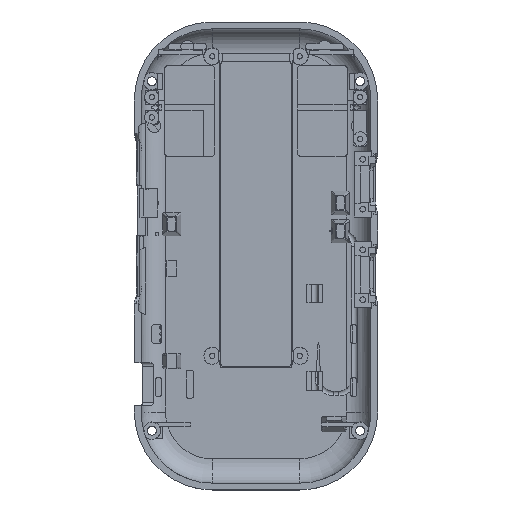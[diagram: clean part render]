
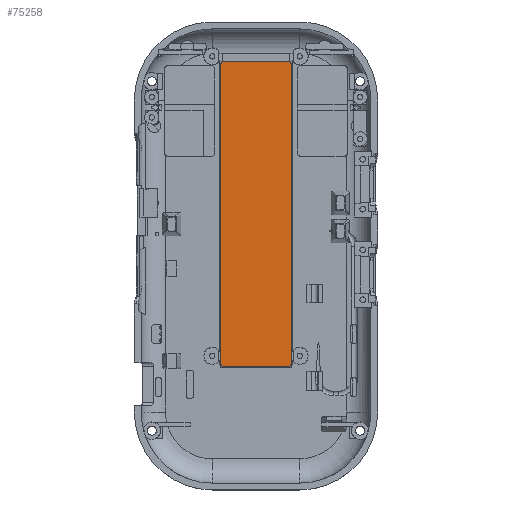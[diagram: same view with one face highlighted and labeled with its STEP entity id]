
A CAD part, top view. The second image highlights one B-rep face of the part: STEP entity #75258.
In plain terms, the highlighted planar face has unit normal (0, 0, 1).
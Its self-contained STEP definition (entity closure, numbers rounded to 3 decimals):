
#6633 = CYLINDRICAL_SURFACE('',#6634,1.);
#6634 = AXIS2_PLACEMENT_3D('',#6635,#6636,#6637);
#6635 = CARTESIAN_POINT('',(-10.25,-34.5,-22.1));
#6636 = DIRECTION('',(-0.,-0.,-1.));
#6637 = DIRECTION('',(1.,0.,0.));
#6848 = CYLINDRICAL_SURFACE('',#6849,1.);
#6849 = AXIS2_PLACEMENT_3D('',#6850,#6851,#6852);
#6850 = CARTESIAN_POINT('',(10.25,-34.5,-22.1));
#6851 = DIRECTION('',(-0.,-0.,-1.));
#6852 = DIRECTION('',(1.,0.,0.));
#18561 = PLANE('',#18562);
#18562 = AXIS2_PLACEMENT_3D('',#18563,#18564,#18565);
#18563 = CARTESIAN_POINT('',(-11.25,-34.5,-22.1));
#18564 = DIRECTION('',(-1.,0.,0.));
#18565 = DIRECTION('',(0.,1.,0.));
#18593 = CYLINDRICAL_SURFACE('',#18594,1.);
#18594 = AXIS2_PLACEMENT_3D('',#18595,#18596,#18597);
#18595 = CARTESIAN_POINT('',(-10.25,61.5,-22.1));
#18596 = DIRECTION('',(-0.,-0.,-1.));
#18597 = DIRECTION('',(1.,0.,0.));
#43942 = CYLINDRICAL_SURFACE('',#43943,1.);
#43943 = AXIS2_PLACEMENT_3D('',#43944,#43945,#43946);
#43944 = CARTESIAN_POINT('',(10.25,61.5,-22.1));
#43945 = DIRECTION('',(-0.,-0.,-1.));
#43946 = DIRECTION('',(1.,0.,0.));
#43969 = PLANE('',#43970);
#43970 = AXIS2_PLACEMENT_3D('',#43971,#43972,#43973);
#43971 = CARTESIAN_POINT('',(11.25,-34.5,-22.1));
#43972 = DIRECTION('',(-1.,0.,0.));
#43973 = DIRECTION('',(0.,1.,0.));
#44176 = VERTEX_POINT('',#44177);
#44177 = CARTESIAN_POINT('',(10.25,-35.5,-22.1));
#44193 = PLANE('',#44194);
#44194 = AXIS2_PLACEMENT_3D('',#44195,#44196,#44197);
#44195 = CARTESIAN_POINT('',(-10.25,-35.5,-22.1));
#44196 = DIRECTION('',(0.,1.,0.));
#44197 = DIRECTION('',(1.,0.,0.));
#44205 = EDGE_CURVE('',#44176,#44206,#44208,.T.);
#44206 = VERTEX_POINT('',#44207);
#44207 = CARTESIAN_POINT('',(11.25,-34.5,-22.1));
#44208 = SURFACE_CURVE('',#44209,(#44214,#44221),.PCURVE_S1.);
#44209 = CIRCLE('',#44210,1.);
#44210 = AXIS2_PLACEMENT_3D('',#44211,#44212,#44213);
#44211 = CARTESIAN_POINT('',(10.25,-34.5,-22.1));
#44212 = DIRECTION('',(0.,0.,1.));
#44213 = DIRECTION('',(1.,0.,-0.));
#44214 = PCURVE('',#6848,#44215);
#44215 = DEFINITIONAL_REPRESENTATION('',(#44216),#44220);
#44216 = LINE('',#44217,#44218);
#44217 = CARTESIAN_POINT('',(6.283,0.));
#44218 = VECTOR('',#44219,1.);
#44219 = DIRECTION('',(-1.,0.));
#44220 = ( GEOMETRIC_REPRESENTATION_CONTEXT(2) 
PARAMETRIC_REPRESENTATION_CONTEXT() REPRESENTATION_CONTEXT('2D SPACE',''
  ) );
#44221 = PCURVE('',#44222,#44227);
#44222 = PLANE('',#44223);
#44223 = AXIS2_PLACEMENT_3D('',#44224,#44225,#44226);
#44224 = CARTESIAN_POINT('',(0.,13.5,-22.1));
#44225 = DIRECTION('',(0.,0.,1.));
#44226 = DIRECTION('',(1.,0.,-0.));
#44227 = DEFINITIONAL_REPRESENTATION('',(#44228),#44232);
#44228 = CIRCLE('',#44229,1.);
#44229 = AXIS2_PLACEMENT_2D('',#44230,#44231);
#44230 = CARTESIAN_POINT('',(10.25,-48.));
#44231 = DIRECTION('',(1.,0.));
#44232 = ( GEOMETRIC_REPRESENTATION_CONTEXT(2) 
PARAMETRIC_REPRESENTATION_CONTEXT() REPRESENTATION_CONTEXT('2D SPACE',''
  ) );
#44345 = VERTEX_POINT('',#44346);
#44346 = CARTESIAN_POINT('',(-11.25,-34.5,-22.1));
#44367 = EDGE_CURVE('',#44345,#44368,#44370,.T.);
#44368 = VERTEX_POINT('',#44369);
#44369 = CARTESIAN_POINT('',(-10.25,-35.5,-22.1));
#44370 = SURFACE_CURVE('',#44371,(#44376,#44383),.PCURVE_S1.);
#44371 = CIRCLE('',#44372,1.);
#44372 = AXIS2_PLACEMENT_3D('',#44373,#44374,#44375);
#44373 = CARTESIAN_POINT('',(-10.25,-34.5,-22.1));
#44374 = DIRECTION('',(0.,0.,1.));
#44375 = DIRECTION('',(1.,0.,-0.));
#44376 = PCURVE('',#6633,#44377);
#44377 = DEFINITIONAL_REPRESENTATION('',(#44378),#44382);
#44378 = LINE('',#44379,#44380);
#44379 = CARTESIAN_POINT('',(6.283,0.));
#44380 = VECTOR('',#44381,1.);
#44381 = DIRECTION('',(-1.,0.));
#44382 = ( GEOMETRIC_REPRESENTATION_CONTEXT(2) 
PARAMETRIC_REPRESENTATION_CONTEXT() REPRESENTATION_CONTEXT('2D SPACE',''
  ) );
#44383 = PCURVE('',#44222,#44384);
#44384 = DEFINITIONAL_REPRESENTATION('',(#44385),#44389);
#44385 = CIRCLE('',#44386,1.);
#44386 = AXIS2_PLACEMENT_2D('',#44387,#44388);
#44387 = CARTESIAN_POINT('',(-10.25,-48.));
#44388 = DIRECTION('',(1.,0.));
#44389 = ( GEOMETRIC_REPRESENTATION_CONTEXT(2) 
PARAMETRIC_REPRESENTATION_CONTEXT() REPRESENTATION_CONTEXT('2D SPACE',''
  ) );
#46128 = PLANE('',#46129);
#46129 = AXIS2_PLACEMENT_3D('',#46130,#46131,#46132);
#46130 = CARTESIAN_POINT('',(-10.25,62.5,-22.1));
#46131 = DIRECTION('',(0.,1.,0.));
#46132 = DIRECTION('',(1.,0.,0.));
#54968 = VERTEX_POINT('',#54969);
#54969 = CARTESIAN_POINT('',(-10.25,62.5,-22.1));
#54990 = EDGE_CURVE('',#54968,#54991,#54993,.T.);
#54991 = VERTEX_POINT('',#54992);
#54992 = CARTESIAN_POINT('',(-11.25,61.5,-22.1));
#54993 = SURFACE_CURVE('',#54994,(#54999,#55006),.PCURVE_S1.);
#54994 = CIRCLE('',#54995,1.);
#54995 = AXIS2_PLACEMENT_3D('',#54996,#54997,#54998);
#54996 = CARTESIAN_POINT('',(-10.25,61.5,-22.1));
#54997 = DIRECTION('',(0.,0.,1.));
#54998 = DIRECTION('',(1.,0.,-0.));
#54999 = PCURVE('',#18593,#55000);
#55000 = DEFINITIONAL_REPRESENTATION('',(#55001),#55005);
#55001 = LINE('',#55002,#55003);
#55002 = CARTESIAN_POINT('',(6.283,0.));
#55003 = VECTOR('',#55004,1.);
#55004 = DIRECTION('',(-1.,0.));
#55005 = ( GEOMETRIC_REPRESENTATION_CONTEXT(2) 
PARAMETRIC_REPRESENTATION_CONTEXT() REPRESENTATION_CONTEXT('2D SPACE',''
  ) );
#55006 = PCURVE('',#44222,#55007);
#55007 = DEFINITIONAL_REPRESENTATION('',(#55008),#55012);
#55008 = CIRCLE('',#55009,1.);
#55009 = AXIS2_PLACEMENT_2D('',#55010,#55011);
#55010 = CARTESIAN_POINT('',(-10.25,48.));
#55011 = DIRECTION('',(1.,0.));
#55012 = ( GEOMETRIC_REPRESENTATION_CONTEXT(2) 
PARAMETRIC_REPRESENTATION_CONTEXT() REPRESENTATION_CONTEXT('2D SPACE',''
  ) );
#55040 = EDGE_CURVE('',#44345,#54991,#55041,.T.);
#55041 = SURFACE_CURVE('',#55042,(#55046,#55053),.PCURVE_S1.);
#55042 = LINE('',#55043,#55044);
#55043 = CARTESIAN_POINT('',(-11.25,13.5,-22.1));
#55044 = VECTOR('',#55045,1.);
#55045 = DIRECTION('',(0.,1.,0.));
#55046 = PCURVE('',#18561,#55047);
#55047 = DEFINITIONAL_REPRESENTATION('',(#55048),#55052);
#55048 = LINE('',#55049,#55050);
#55049 = CARTESIAN_POINT('',(48.,0.));
#55050 = VECTOR('',#55051,1.);
#55051 = DIRECTION('',(1.,0.));
#55052 = ( GEOMETRIC_REPRESENTATION_CONTEXT(2) 
PARAMETRIC_REPRESENTATION_CONTEXT() REPRESENTATION_CONTEXT('2D SPACE',''
  ) );
#55053 = PCURVE('',#44222,#55054);
#55054 = DEFINITIONAL_REPRESENTATION('',(#55055),#55059);
#55055 = LINE('',#55056,#55057);
#55056 = CARTESIAN_POINT('',(-11.25,0.));
#55057 = VECTOR('',#55058,1.);
#55058 = DIRECTION('',(0.,1.));
#55059 = ( GEOMETRIC_REPRESENTATION_CONTEXT(2) 
PARAMETRIC_REPRESENTATION_CONTEXT() REPRESENTATION_CONTEXT('2D SPACE',''
  ) );
#75107 = EDGE_CURVE('',#44206,#75108,#75110,.T.);
#75108 = VERTEX_POINT('',#75109);
#75109 = CARTESIAN_POINT('',(11.25,61.5,-22.1));
#75110 = SURFACE_CURVE('',#75111,(#75115,#75122),.PCURVE_S1.);
#75111 = LINE('',#75112,#75113);
#75112 = CARTESIAN_POINT('',(11.25,13.5,-22.1));
#75113 = VECTOR('',#75114,1.);
#75114 = DIRECTION('',(0.,1.,0.));
#75115 = PCURVE('',#43969,#75116);
#75116 = DEFINITIONAL_REPRESENTATION('',(#75117),#75121);
#75117 = LINE('',#75118,#75119);
#75118 = CARTESIAN_POINT('',(48.,0.));
#75119 = VECTOR('',#75120,1.);
#75120 = DIRECTION('',(1.,0.));
#75121 = ( GEOMETRIC_REPRESENTATION_CONTEXT(2) 
PARAMETRIC_REPRESENTATION_CONTEXT() REPRESENTATION_CONTEXT('2D SPACE',''
  ) );
#75122 = PCURVE('',#44222,#75123);
#75123 = DEFINITIONAL_REPRESENTATION('',(#75124),#75128);
#75124 = LINE('',#75125,#75126);
#75125 = CARTESIAN_POINT('',(11.25,0.));
#75126 = VECTOR('',#75127,1.);
#75127 = DIRECTION('',(0.,1.));
#75128 = ( GEOMETRIC_REPRESENTATION_CONTEXT(2) 
PARAMETRIC_REPRESENTATION_CONTEXT() REPRESENTATION_CONTEXT('2D SPACE',''
  ) );
#75157 = EDGE_CURVE('',#75108,#75158,#75160,.T.);
#75158 = VERTEX_POINT('',#75159);
#75159 = CARTESIAN_POINT('',(10.25,62.5,-22.1));
#75160 = SURFACE_CURVE('',#75161,(#75166,#75173),.PCURVE_S1.);
#75161 = CIRCLE('',#75162,1.);
#75162 = AXIS2_PLACEMENT_3D('',#75163,#75164,#75165);
#75163 = CARTESIAN_POINT('',(10.25,61.5,-22.1));
#75164 = DIRECTION('',(0.,0.,1.));
#75165 = DIRECTION('',(1.,0.,-0.));
#75166 = PCURVE('',#43942,#75167);
#75167 = DEFINITIONAL_REPRESENTATION('',(#75168),#75172);
#75168 = LINE('',#75169,#75170);
#75169 = CARTESIAN_POINT('',(6.283,0.));
#75170 = VECTOR('',#75171,1.);
#75171 = DIRECTION('',(-1.,0.));
#75172 = ( GEOMETRIC_REPRESENTATION_CONTEXT(2) 
PARAMETRIC_REPRESENTATION_CONTEXT() REPRESENTATION_CONTEXT('2D SPACE',''
  ) );
#75173 = PCURVE('',#44222,#75174);
#75174 = DEFINITIONAL_REPRESENTATION('',(#75175),#75179);
#75175 = CIRCLE('',#75176,1.);
#75176 = AXIS2_PLACEMENT_2D('',#75177,#75178);
#75177 = CARTESIAN_POINT('',(10.25,48.));
#75178 = DIRECTION('',(1.,0.));
#75179 = ( GEOMETRIC_REPRESENTATION_CONTEXT(2) 
PARAMETRIC_REPRESENTATION_CONTEXT() REPRESENTATION_CONTEXT('2D SPACE',''
  ) );
#75235 = EDGE_CURVE('',#44368,#44176,#75236,.T.);
#75236 = SURFACE_CURVE('',#75237,(#75241,#75248),.PCURVE_S1.);
#75237 = LINE('',#75238,#75239);
#75238 = CARTESIAN_POINT('',(0.,-35.5,-22.1));
#75239 = VECTOR('',#75240,1.);
#75240 = DIRECTION('',(1.,0.,0.));
#75241 = PCURVE('',#44193,#75242);
#75242 = DEFINITIONAL_REPRESENTATION('',(#75243),#75247);
#75243 = LINE('',#75244,#75245);
#75244 = CARTESIAN_POINT('',(10.25,0.));
#75245 = VECTOR('',#75246,1.);
#75246 = DIRECTION('',(1.,0.));
#75247 = ( GEOMETRIC_REPRESENTATION_CONTEXT(2) 
PARAMETRIC_REPRESENTATION_CONTEXT() REPRESENTATION_CONTEXT('2D SPACE',''
  ) );
#75248 = PCURVE('',#44222,#75249);
#75249 = DEFINITIONAL_REPRESENTATION('',(#75250),#75254);
#75250 = LINE('',#75251,#75252);
#75251 = CARTESIAN_POINT('',(0.,-49.));
#75252 = VECTOR('',#75253,1.);
#75253 = DIRECTION('',(1.,0.));
#75254 = ( GEOMETRIC_REPRESENTATION_CONTEXT(2) 
PARAMETRIC_REPRESENTATION_CONTEXT() REPRESENTATION_CONTEXT('2D SPACE',''
  ) );
#75258 = ADVANCED_FACE('',(#75259),#44222,.T.);
#75259 = FACE_BOUND('',#75260,.T.);
#75260 = EDGE_LOOP('',(#75261,#75262,#75263,#75264,#75265,#75266,#75267,
    #75288));
#75261 = ORIENTED_EDGE('',*,*,#55040,.F.);
#75262 = ORIENTED_EDGE('',*,*,#44367,.T.);
#75263 = ORIENTED_EDGE('',*,*,#75235,.T.);
#75264 = ORIENTED_EDGE('',*,*,#44205,.T.);
#75265 = ORIENTED_EDGE('',*,*,#75107,.T.);
#75266 = ORIENTED_EDGE('',*,*,#75157,.T.);
#75267 = ORIENTED_EDGE('',*,*,#75268,.F.);
#75268 = EDGE_CURVE('',#54968,#75158,#75269,.T.);
#75269 = SURFACE_CURVE('',#75270,(#75274,#75281),.PCURVE_S1.);
#75270 = LINE('',#75271,#75272);
#75271 = CARTESIAN_POINT('',(0.,62.5,-22.1));
#75272 = VECTOR('',#75273,1.);
#75273 = DIRECTION('',(1.,0.,0.));
#75274 = PCURVE('',#44222,#75275);
#75275 = DEFINITIONAL_REPRESENTATION('',(#75276),#75280);
#75276 = LINE('',#75277,#75278);
#75277 = CARTESIAN_POINT('',(0.,49.));
#75278 = VECTOR('',#75279,1.);
#75279 = DIRECTION('',(1.,0.));
#75280 = ( GEOMETRIC_REPRESENTATION_CONTEXT(2) 
PARAMETRIC_REPRESENTATION_CONTEXT() REPRESENTATION_CONTEXT('2D SPACE',''
  ) );
#75281 = PCURVE('',#46128,#75282);
#75282 = DEFINITIONAL_REPRESENTATION('',(#75283),#75287);
#75283 = LINE('',#75284,#75285);
#75284 = CARTESIAN_POINT('',(10.25,0.));
#75285 = VECTOR('',#75286,1.);
#75286 = DIRECTION('',(1.,0.));
#75287 = ( GEOMETRIC_REPRESENTATION_CONTEXT(2) 
PARAMETRIC_REPRESENTATION_CONTEXT() REPRESENTATION_CONTEXT('2D SPACE',''
  ) );
#75288 = ORIENTED_EDGE('',*,*,#54990,.T.);
